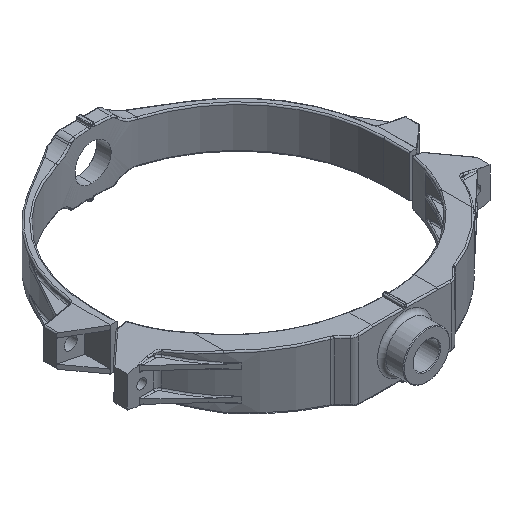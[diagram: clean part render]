
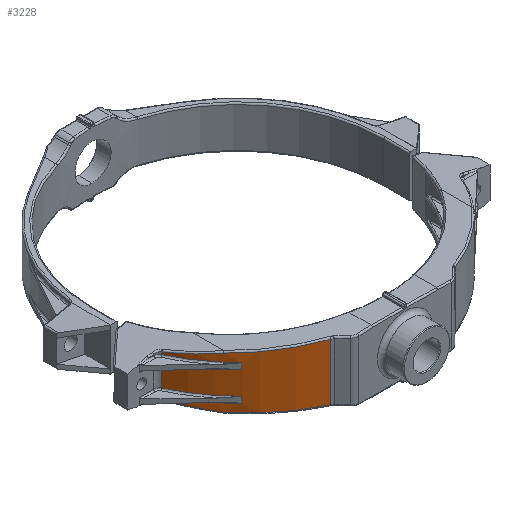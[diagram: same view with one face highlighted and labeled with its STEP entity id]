
A CAD part, isometric view. The second image highlights one B-rep face of the part: STEP entity #3228.
In plain terms, the highlighted cylindrical face has radius 118 mm (diameter 236 mm), a partial arc.
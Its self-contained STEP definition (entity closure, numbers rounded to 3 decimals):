
#513=ELLIPSE('',#12041,118.018,118.);
#514=ELLIPSE('',#12042,118.018,118.);
#515=ELLIPSE('',#12043,118.018,118.);
#516=ELLIPSE('',#12044,118.018,118.);
#527=ELLIPSE('',#12097,118.12,118.);
#528=ELLIPSE('',#12098,118.12,118.);
#529=ELLIPSE('',#12099,120.298,118.);
#530=ELLIPSE('',#12100,120.298,118.);
#1162=FACE_OUTER_BOUND('',#4664,.T.);
#1793=LINE('',#20677,#2340);
#1811=LINE('',#20802,#2358);
#1814=LINE('',#20814,#2361);
#1816=LINE('',#20836,#2363);
#1820=LINE('',#20869,#2367);
#1821=LINE('',#20880,#2368);
#2340=VECTOR('',#14164,1.);
#2358=VECTOR('',#14250,1.);
#2361=VECTOR('',#14259,1.);
#2363=VECTOR('',#14267,1.);
#2367=VECTOR('',#14283,1.);
#2368=VECTOR('',#14296,1.);
#2780=CYLINDRICAL_SURFACE('',#12101,118.);
#3228=ADVANCED_FACE('',(#1162),#2780,.T.);
#4664=EDGE_LOOP('',(#6519,#6520,#6521,#6522,#6523,#6524,#6525,#6526,#6527,
#6528,#6529,#6530,#6531,#6532));
#6519=ORIENTED_EDGE('',*,*,#10287,.T.);
#6520=ORIENTED_EDGE('',*,*,#10288,.T.);
#6521=ORIENTED_EDGE('',*,*,#10289,.T.);
#6522=ORIENTED_EDGE('',*,*,#10290,.T.);
#6523=ORIENTED_EDGE('',*,*,#10226,.T.);
#6524=ORIENTED_EDGE('',*,*,#10221,.T.);
#6525=ORIENTED_EDGE('',*,*,#10270,.F.);
#6526=ORIENTED_EDGE('',*,*,#10219,.T.);
#6527=ORIENTED_EDGE('',*,*,#10265,.T.);
#6528=ORIENTED_EDGE('',*,*,#10217,.T.);
#6529=ORIENTED_EDGE('',*,*,#10275,.F.);
#6530=ORIENTED_EDGE('',*,*,#10215,.T.);
#6531=ORIENTED_EDGE('',*,*,#10283,.T.);
#6532=ORIENTED_EDGE('',*,*,#10291,.T.);
#8931=VERTEX_POINT('',#20125);
#8961=VERTEX_POINT('',#20272);
#8966=VERTEX_POINT('',#20294);
#8981=VERTEX_POINT('',#20351);
#8982=VERTEX_POINT('',#20381);
#8983=VERTEX_POINT('',#20411);
#8984=VERTEX_POINT('',#20441);
#8985=VERTEX_POINT('',#20471);
#8990=VERTEX_POINT('',#20678);
#9018=VERTEX_POINT('',#20868);
#9021=VERTEX_POINT('',#20878);
#9022=VERTEX_POINT('',#20879);
#9023=VERTEX_POINT('',#20881);
#9024=VERTEX_POINT('',#20883);
#10215=EDGE_CURVE('',#8982,#8981,#513,.T.);
#10217=EDGE_CURVE('',#8966,#8983,#514,.T.);
#10219=EDGE_CURVE('',#8984,#8961,#515,.T.);
#10221=EDGE_CURVE('',#8931,#8985,#516,.T.);
#10226=EDGE_CURVE('',#8990,#8931,#1793,.T.);
#10265=EDGE_CURVE('',#8961,#8966,#1811,.T.);
#10270=EDGE_CURVE('',#8984,#8985,#1814,.T.);
#10275=EDGE_CURVE('',#8982,#8983,#1816,.T.);
#10283=EDGE_CURVE('',#8981,#9018,#1820,.T.);
#10287=EDGE_CURVE('',#9021,#9022,#527,.T.);
#10288=EDGE_CURVE('',#9022,#9023,#1821,.T.);
#10289=EDGE_CURVE('',#9023,#9024,#528,.T.);
#10290=EDGE_CURVE('',#9024,#8990,#529,.T.);
#10291=EDGE_CURVE('',#9018,#9021,#530,.T.);
#12041=AXIS2_PLACEMENT_3D('',#20382,#14154,#14155);
#12042=AXIS2_PLACEMENT_3D('',#20412,#14156,#14157);
#12043=AXIS2_PLACEMENT_3D('',#20442,#14158,#14159);
#12044=AXIS2_PLACEMENT_3D('',#20472,#14160,#14161);
#12097=AXIS2_PLACEMENT_3D('',#20877,#14294,#14295);
#12098=AXIS2_PLACEMENT_3D('',#20882,#14297,#14298);
#12099=AXIS2_PLACEMENT_3D('',#20884,#14299,#14300);
#12100=AXIS2_PLACEMENT_3D('',#20885,#14301,#14302);
#12101=AXIS2_PLACEMENT_3D('',#20886,#14303,#14304);
#14154=DIRECTION('',(0.,-0.018,-1.));
#14155=DIRECTION('',(0.,1.,-0.018));
#14156=DIRECTION('',(0.,-0.018,1.));
#14157=DIRECTION('',(0.,-1.,-0.018));
#14158=DIRECTION('',(0.,-0.018,-1.));
#14159=DIRECTION('',(0.,1.,-0.018));
#14160=DIRECTION('',(0.,-0.018,1.));
#14161=DIRECTION('',(0.,-1.,-0.018));
#14164=DIRECTION('',(0.,0.,-1.));
#14250=DIRECTION('',(0.,0.,-1.));
#14259=DIRECTION('',(0.,0.,1.));
#14267=DIRECTION('',(0.,0.,1.));
#14283=DIRECTION('',(0.,0.,-1.));
#14294=DIRECTION('',(0.045,0.,0.999));
#14295=DIRECTION('',(0.999,0.,-0.045));
#14296=DIRECTION('',(0.,0.,1.));
#14297=DIRECTION('',(0.045,0.,-0.999));
#14298=DIRECTION('',(-0.999,0.,-0.045));
#14299=DIRECTION('',(0.195,0.,-0.981));
#14300=DIRECTION('',(-0.981,0.,-0.195));
#14301=DIRECTION('',(0.195,0.,0.981));
#14302=DIRECTION('',(0.981,0.,-0.195));
#14303=DIRECTION('',(0.,0.,-1.));
#14304=DIRECTION('',(-1.,0.,0.));
#20125=CARTESIAN_POINT('',(-105.812,-52.23,12.953));
#20272=CARTESIAN_POINT('',(-105.812,-52.23,7.546));
#20294=CARTESIAN_POINT('',(-105.812,-52.23,-7.546));
#20351=CARTESIAN_POINT('',(-105.812,-52.23,-12.953));
#20381=CARTESIAN_POINT('',(-82.076,-84.779,-12.38));
#20382=CARTESIAN_POINT('',(0.,0.,-13.873));
#20411=CARTESIAN_POINT('',(-82.076,-84.779,-8.119));
#20412=CARTESIAN_POINT('',(0.,0.,-6.627));
#20441=CARTESIAN_POINT('',(-82.076,-84.779,8.119));
#20442=CARTESIAN_POINT('',(0.,0.,6.627));
#20471=CARTESIAN_POINT('',(-82.076,-84.779,12.38));
#20472=CARTESIAN_POINT('',(0.,0.,13.873));
#20677=CARTESIAN_POINT('',(-105.812,-52.23,22.));
#20678=CARTESIAN_POINT('',(-105.812,-52.23,14.597));
#20802=CARTESIAN_POINT('',(-105.812,-52.23,22.));
#20814=CARTESIAN_POINT('',(-82.076,-84.779,22.));
#20836=CARTESIAN_POINT('',(-82.076,-84.779,22.));
#20868=CARTESIAN_POINT('',(-105.812,-52.23,-14.597));
#20869=CARTESIAN_POINT('',(-105.812,-52.23,22.));
#20877=CARTESIAN_POINT('',(0.,0.,-22.045));
#20878=CARTESIAN_POINT('',(-88.336,-78.235,-18.063));
#20879=CARTESIAN_POINT('',(-44.305,-109.367,-20.047));
#20880=CARTESIAN_POINT('',(-44.305,-109.367,22.));
#20881=CARTESIAN_POINT('',(-44.305,-109.367,20.047));
#20882=CARTESIAN_POINT('',(0.,0.,22.045));
#20883=CARTESIAN_POINT('',(-88.336,-78.235,18.063));
#20884=CARTESIAN_POINT('',(0.,0.,35.58));
#20885=CARTESIAN_POINT('',(0.,0.,-35.58));
#20886=CARTESIAN_POINT('',(0.,0.,22.));
